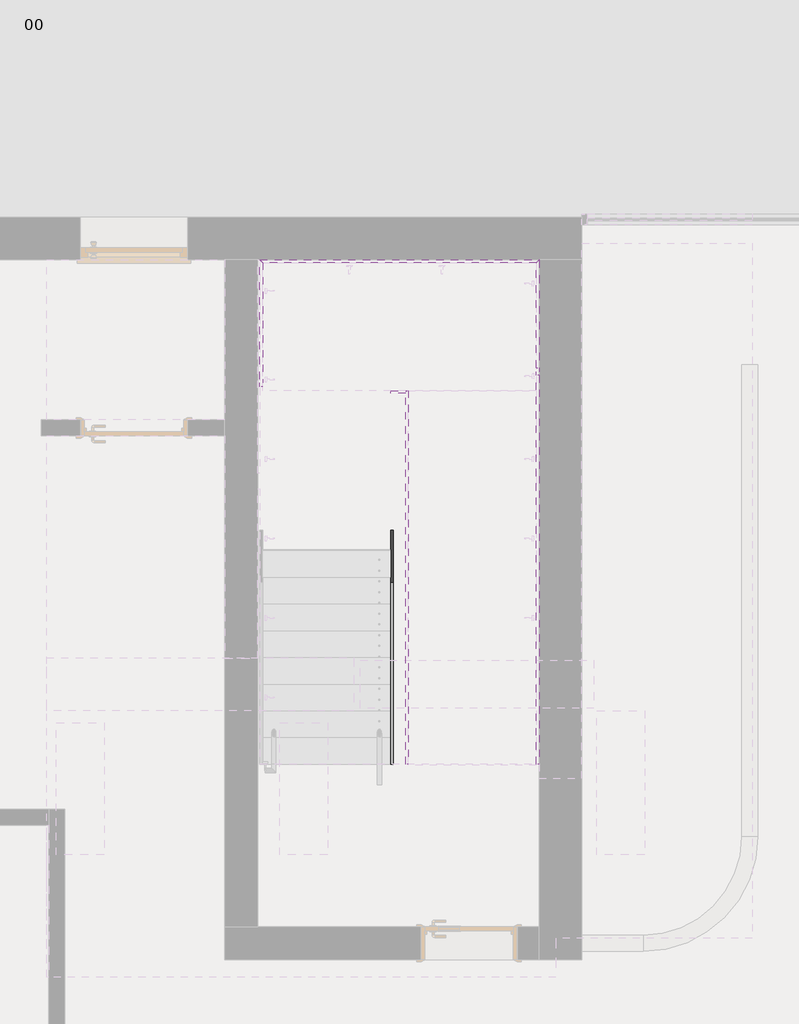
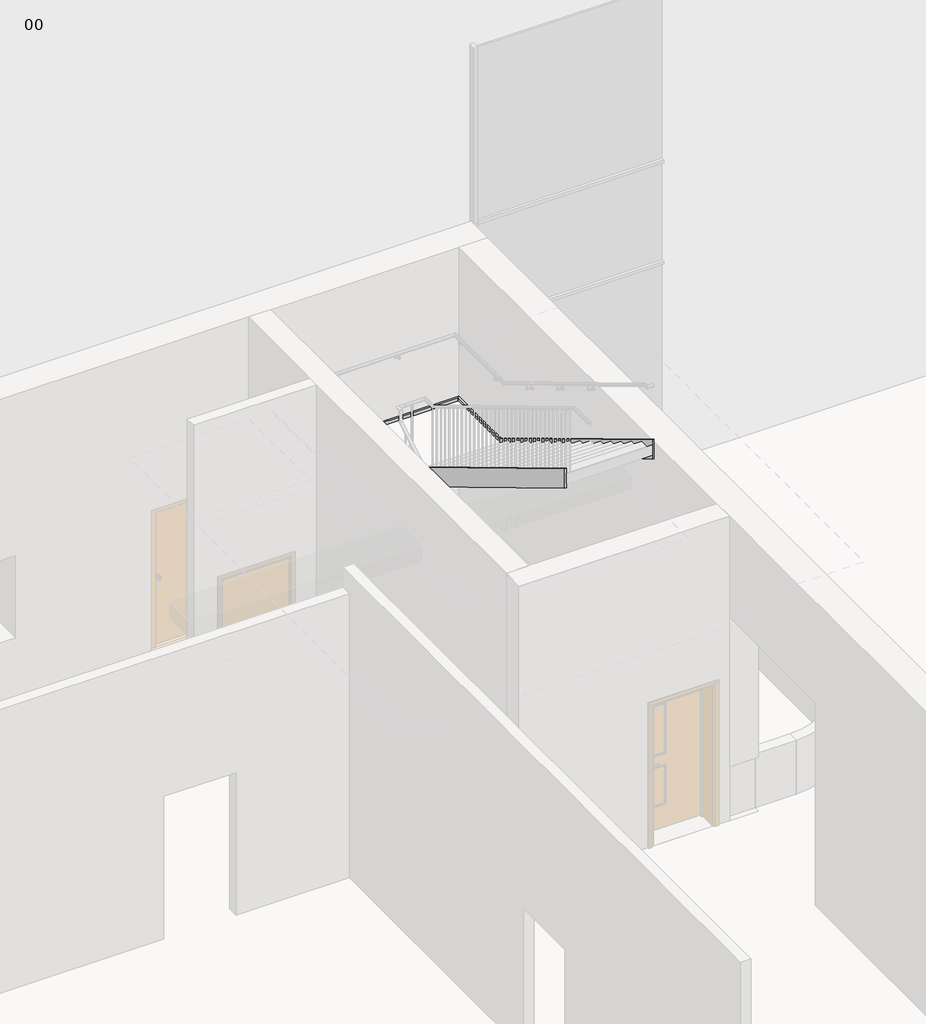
# One storey, part 12 of 12: 7 members.
"""IFC4 building model written with IfcOpenShell, lengths in millimetres."""

from ifc_helpers import new_model, si_unit, frame, origin, place, context, project, spatial, polyline, outline, extrude, faceted_brep, element, save

model = new_model("IFC4")

# Units and contexts
model_context = context("Model", 3, world=origin())
ifc_project = project(units=[si_unit("LENGTHUNIT", "METRE", prefix="MILLI")], contexts=[model_context])

# Site, building, storey
site = spatial("IfcSite", under=ifc_project)
building = spatial("IfcBuilding", under=site)
storey = spatial("IfcBuildingStorey", under=building, Name="00", Elevation=0.0)

# Members
placement = place(None, origin())
element("IfcMember", 1, ObjectType="Stringer_25x250mm_Material", at=placement, inside=storey, context=model_context, shape_type="SweptSolid", body=[
    extrude(outline(polyline([(-386275.0026386, 0.0), (-386275.0026386, 177.2380758), (-382800.0026386, 2262.2380758), (-382800.0026386, 1970.6904811), (-386084.4867737, 0.0), (-386275.0026386, 0.0)])), frame((444347.3206883, 0.0, 0.0), z_axis=(1.0, 0.0, 0.0), x_axis=(0.0, 1.0, 0.0)), (0.0, 0.0, 1.0), 25.0),
])
element("IfcMember", 2, ObjectType="Stringer_25x250mm_Material", at=placement, inside=storey, context=model_context, shape_type="SweptSolid", body=[
    extrude(outline(polyline([(-382562.939179, 2300.0), (-382632.1851702, 2050.0), (-386275.0026386, 4235.6904811), (-386275.0026386, 4527.2380758), (-382562.939179, 2300.0)])), frame((445713.3206883, 0.0, 0.0), z_axis=(1.0, 0.0, 0.0), x_axis=(0.0, 1.0, 0.0)), (0.0, 0.0, 1.0), 25.0),
])
element("IfcMember", 3, ObjectType="Stringer_25x250mm_Material", at=placement, inside=storey, context=model_context, shape_type="SweptSolid", body=[
    extrude(outline(polyline([(-382775.0026386, 2427.2380758), (-382775.0026386, 2135.6904811), (-386275.0026386, 4235.6904811), (-386275.0026386, 4527.2380758), (-382775.0026386, 2427.2380758)])), frame((444488.3206883, 0.0, 0.0), z_axis=(1.0, 0.0, 0.0), x_axis=(0.0, 1.0, 0.0)), (0.0, 0.0, 1.0), 25.0),
])
element("IfcMember", 4, ObjectType="Stringer_25x250mm_Material", at=placement, inside=storey, context=model_context, shape_type="Brep", body=[
    faceted_brep([(445713.3206883, -382562.939179, 2300.0), (445738.3206883, -382562.939179, 2300.0), (445738.3206883, -381550.0026386, 2300.0), (445713.3206883, -381575.0026386, 2300.0), (445713.3206883, -382632.1851702, 2050.0), (445713.3206883, -381575.0026386, 2050.0), (445738.3206883, -382632.1851702, 2050.0), (445738.3206883, -381550.0026386, 2050.0)], [[[0, 1, 2, 3]], [[4, 0, 3, 5]], [[6, 4, 5, 7]], [[1, 6, 7, 2]], [[1, 0, 4, 6]], [[2, 7, 5, 3]]]),
])
element("IfcMember", 5, ObjectType="Stringer_25x250mm_Material", at=placement, inside=storey, context=model_context, shape_type="SweptSolid", body=[
    extrude(outline(polyline([(445738.3206883, -381550.0026386), (445713.3206883, -381575.0026386), (443147.3206883, -381575.0026386), (443122.3206883, -381550.0026386), (445738.3206883, -381550.0026386)])), frame((0.0, 0.0, 2050.0), z_axis=(0.0, 0.0, 1.0), x_axis=(1.0, 0.0, 0.0)), (0.0, 0.0, 1.0), 250.0),
])
element("IfcMember", 6, ObjectType="Stringer_25x250mm_Material", at=placement, inside=storey, context=model_context, shape_type="Brep", body=[
    faceted_brep([(443147.3206883, -381575.0026386, 2300.0), (443122.3206883, -381550.0026386, 2300.0), (443122.3206883, -382737.0660983, 2300.0), (443147.3206883, -382737.0660983, 2300.0), (443147.3206883, -381575.0026386, 2050.0), (443147.3206883, -382667.820107, 2050.0), (443122.3206883, -381550.0026386, 2050.0), (443122.3206883, -382667.820107, 2050.0)], [[[0, 1, 2, 3]], [[4, 0, 3, 5]], [[6, 4, 5, 7]], [[1, 6, 7, 2]], [[1, 0, 4, 6]], [[2, 7, 5, 3]]]),
])
element("IfcMember", 7, ObjectType="Stringer_25x250mm_Material", at=placement, inside=storey, context=model_context, shape_type="SweptSolid", body=[
    extrude(outline(polyline([(444347.3206883, -382800.0026386), (444347.3206883, -382775.0026386), (444488.3206883, -382775.0026386), (444488.3206883, -382800.0026386), (444347.3206883, -382800.0026386)])), frame((0.0, 0.0, 2050.0), z_axis=(0.0, 0.0, 1.0), x_axis=(1.0, 0.0, 0.0)), (0.0, 0.0, 1.0), 250.0),
])

save(model, "model.ifc")
